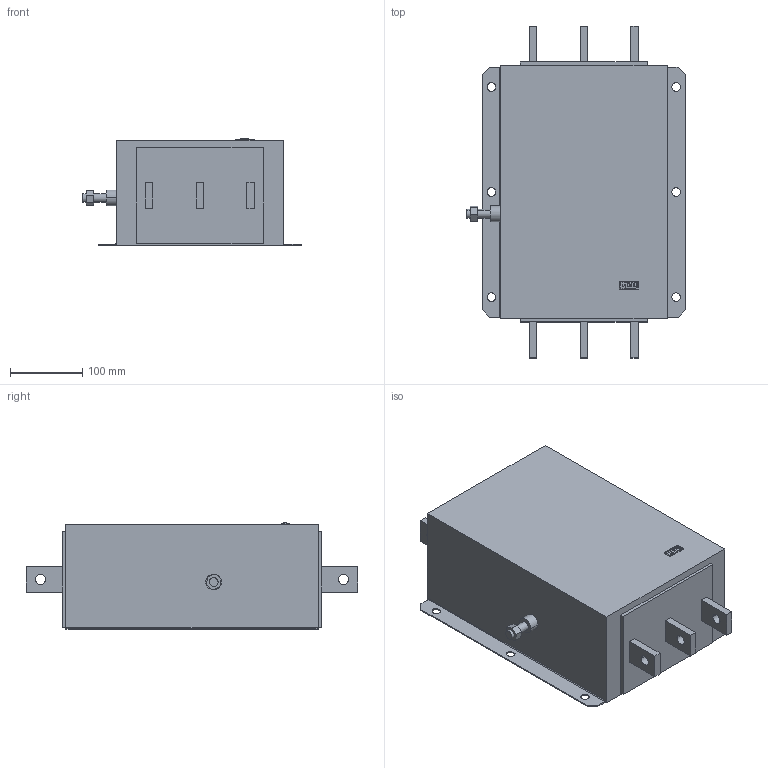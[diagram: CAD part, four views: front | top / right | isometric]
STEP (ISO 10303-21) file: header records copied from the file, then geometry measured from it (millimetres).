
FILE_DESCRIPTION (( 'STEP AP214' ), '1' );
FILE_NAME ('00E6X01-0033.STEP', '2023-07-11T08:37:13', ( '' ), ( '' ), 'SwSTEP 2.0', 'SolidWorks 2022', '' );
FILE_SCHEMA (( 'AUTOMOTIVE_DESIGN' ));
Length unit declared in the file: millimetre
Products named in the file (1): 00E6X01-0033
Bounding box: 301.5 x 458 x 146.52 mm (x, y, z)
Volume: 12000172.2 mm3; surface area: 397925.7 mm2
Topology: 1 solids, 1 shells, 164 faces, 427 edges, 282 vertices
Faces by surface type: plane 105, cylinder 46, bspline 13
Entity records: 5968 total; most frequent: CARTESIAN_POINT 1767, ORIENTED_EDGE 854, DIRECTION 723, EDGE_CURVE 427, VERTEX_POINT 282, LINE 255, VECTOR 255, AXIS2_PLACEMENT_3D 234
